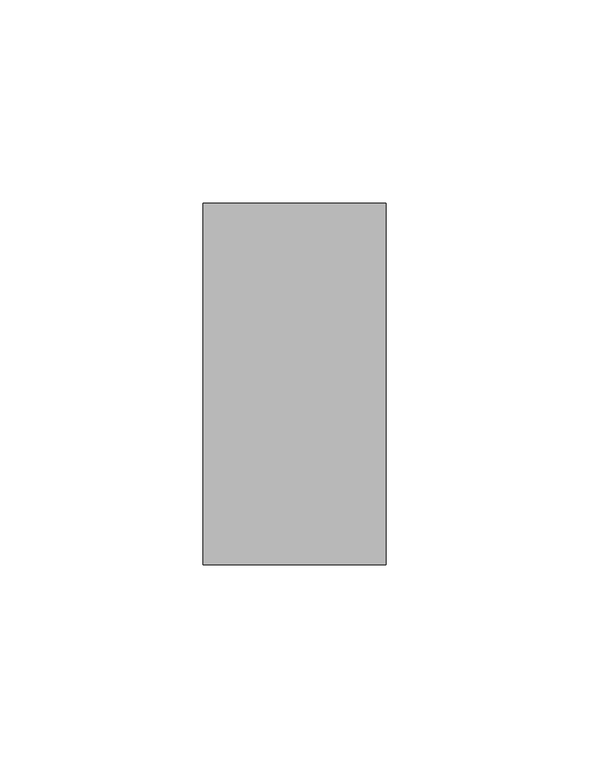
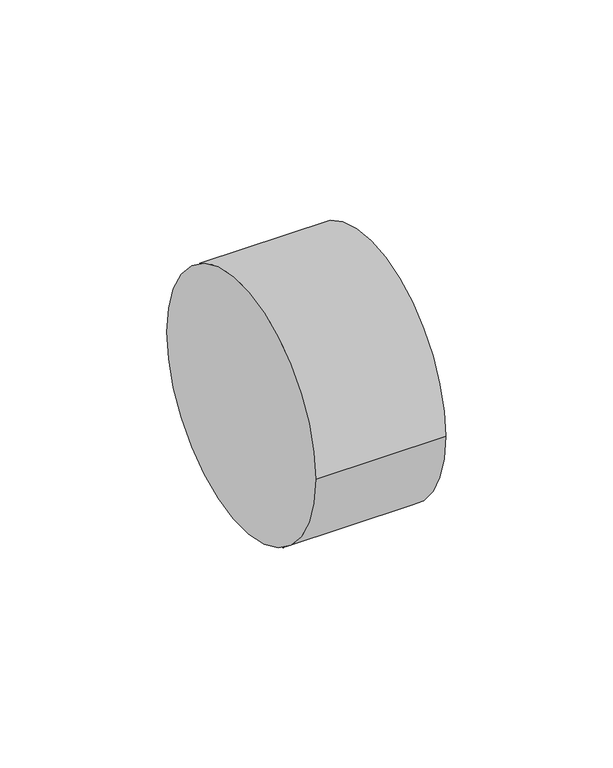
"""IFC4 building model written with IfcOpenShell, lengths in millimetres: pipe fitting geometry, ADSK_ДетальСтальнаяСварная_Заглушка_ГОСТ17379-2001 : Исполнение 2."""

import ifcopenshell
import ifcopenshell.guid

model = None  # the IFC model being written
_history = None  # IfcOwnerHistory: only IFC2X3 demands one
_inside = {}  # id of a spatial element -> (the spatial element, [elements in it])
_under = {}  # id of a project, library or spatial element -> (it, [spatial elements below it])
_declared = {}  # id of a project -> (the project, [libraries it declares])
_typed = {}  # id of a type object -> (the type object, [elements of that type])
_made_of = {}  # id of a material, layer set ... -> (it, [elements and type objects made of it])


def new_model(schema):
    """Start an empty IFC model of exactly this schema.

    Asked for "IFC4X3", IfcOpenShell would pick the latest addendum, in which some entities
    have other attributes; the version numbers below select the first issue.
    IFC2X3 requires an IfcOwnerHistory on every rooted entity: one is made here for all.
    """
    global model, _history
    if schema == "IFC4X3":
        model = ifcopenshell.file(schema_version=(4, 3, 0, 0))
    else:
        model = ifcopenshell.file(schema=schema)
    _inside.clear()
    _under.clear()
    _declared.clear()
    _typed.clear()
    _made_of.clear()
    _history = None
    if model.schema == "IFC2X3":
        org = make("IfcOrganization", Name="unknown")
        user = make(
            "IfcPersonAndOrganization",
            ThePerson=make("IfcPerson", FamilyName="unknown"),
            TheOrganization=org,
        )
        app = make(
            "IfcApplication",
            ApplicationDeveloper=org,
            Version="unknown",
            ApplicationFullName="unknown",
            ApplicationIdentifier="unknown",
        )
        _history = make(
            "IfcOwnerHistory",
            OwningUser=user,
            OwningApplication=app,
            ChangeAction="ADDED",
            CreationDate=0,
        )
    return model


def make(cls, **values):
    """One entity of the class cls with the attributes given. An attribute that is None is left unset."""
    return model.create_entity(
        cls, **{name: value for name, value in values.items() if value is not None}
    )


def rooted(cls, **values):
    """An entity with a GlobalId (a new one), such as an element, a storey or a relation."""
    return make(cls, GlobalId=ifcopenshell.guid.new(), OwnerHistory=_history, **values)


def si_unit(unit_type, name, prefix=None):
    """IfcSIUnit, for example si_unit("LENGTHUNIT", "METRE", prefix="MILLI")."""
    return make("IfcSIUnit", UnitType=unit_type, Prefix=prefix, Name=name)


def assignment(units):
    """IfcUnitAssignment: the units of a project."""
    return None if units is None else make("IfcUnitAssignment", Units=units)


def point(xyz):
    """IfcCartesianPoint."""
    return None if xyz is None else make("IfcCartesianPoint", Coordinates=xyz)


def direction(xyz):
    """IfcDirection."""
    return None if xyz is None else make("IfcDirection", DirectionRatios=xyz)


def frame(location, z_axis=None, x_axis=None):
    """IfcAxis2Placement3D, a coordinate frame: its origin and axes. An axis left out is left unset."""
    return make(
        "IfcAxis2Placement3D",
        Location=point(location),
        Axis=direction(z_axis),
        RefDirection=direction(x_axis),
    )


def frame_2d(location, x_axis=None):
    """IfcAxis2Placement2D, a coordinate frame in the plane: its origin and x axis."""
    return make(
        "IfcAxis2Placement2D", Location=point(location), RefDirection=direction(x_axis)
    )


def origin():
    """The frame at (0, 0, 0) with its axes left unset."""
    return frame((0.0, 0.0, 0.0))


def origin_2d():
    """The frame at (0, 0) in the plane with its x axis left unset."""
    return frame_2d((0.0, 0.0))


def place(relative_to, where):
    """IfcLocalPlacement: puts the frame where relative to a parent placement (None: the world)."""
    return make(
        "IfcLocalPlacement", PlacementRelTo=relative_to, RelativePlacement=where
    )


def context(
    kind, dimensions, precision=None, world=None, true_north=None, identifier=None
):
    """IfcGeometricRepresentationContext, for example the 3D "Model" context."""
    return make(
        "IfcGeometricRepresentationContext",
        ContextIdentifier=identifier,
        ContextType=kind,
        CoordinateSpaceDimension=dimensions,
        Precision=precision,
        WorldCoordinateSystem=world,
        TrueNorth=true_north,
    )


def project(units=None, contexts=None):
    """IfcProject with its units and contexts."""
    return rooted(
        "IfcProject",
        Name="project",
        RepresentationContexts=contexts,
        UnitsInContext=assignment(units),
    )


def spatial(cls, under=None, at=None, **own):
    """A site, building, storey or space (cls), placed at a placement, below another one or the project."""
    s = rooted(cls, ObjectPlacement=at, **own)
    if under is not None:
        _under.setdefault(under.id(), (under, []))[1].append(s)
    return s


def circle_curve(where, radius):
    """IfcCircle in the frame where."""
    return make("IfcCircle", Position=where, Radius=radius)


def trimmed(basis, trim1, trim2, sense, master):
    """IfcTrimmedCurve: the piece of a basis curve between two trims."""
    return make(
        "IfcTrimmedCurve",
        BasisCurve=basis,
        Trim1=trim1,
        Trim2=trim2,
        SenseAgreement=sense,
        MasterRepresentation=master,
    )


def segment(curve, same_sense, transition):
    """IfcCompositeCurveSegment."""
    return make(
        "IfcCompositeCurveSegment",
        Transition=transition,
        SameSense=same_sense,
        ParentCurve=curve,
    )


def composite_curve(segments, self_intersect=None):
    """IfcCompositeCurve: segments joined end to end."""
    return make("IfcCompositeCurve", Segments=segments, SelfIntersect=self_intersect)


def outline(outer, holes=None, kind="AREA"):
    """IfcArbitraryClosedProfileDef: a profile drawn as a closed curve; with holes, ...WithVoids."""
    if holes is None:
        return make("IfcArbitraryClosedProfileDef", ProfileType=kind, OuterCurve=outer)
    return make(
        "IfcArbitraryProfileDefWithVoids",
        ProfileType=kind,
        OuterCurve=outer,
        InnerCurves=holes,
    )


def extrude(swept, where, along, depth):
    """IfcExtrudedAreaSolid: the profile swept, set in the frame where, extruded along a direction by depth."""
    return make(
        "IfcExtrudedAreaSolid",
        SweptArea=swept,
        Position=where,
        ExtrudedDirection=direction(along),
        Depth=depth,
    )


def shape(context_of_items, identifier, shape_type, items):
    """IfcShapeRepresentation: the items that make up one representation, for example the "Body"."""
    return make(
        "IfcShapeRepresentation",
        ContextOfItems=context_of_items,
        RepresentationIdentifier=identifier,
        RepresentationType=shape_type,
        Items=items,
    )


def source(mapping_origin, context_of_items, identifier, shape_type, items):
    """IfcRepresentationMap: a shape defined once, which mapped items show again and again."""
    return make(
        "IfcRepresentationMap",
        MappingOrigin=mapping_origin,
        MappedRepresentation=shape(context_of_items, identifier, shape_type, items),
    )


def transform(
    local_origin,
    x_axis=None,
    y_axis=None,
    z_axis=None,
    scale=None,
    scale2=None,
    scale3=None,
    uniform=True,
):
    """IfcCartesianTransformationOperator3D, or its non-uniform kind. x_axis, y_axis, z_axis: its Axis1, 2, 3."""
    if uniform:
        return make(
            "IfcCartesianTransformationOperator3D",
            Axis1=direction(x_axis),
            Axis2=direction(y_axis),
            LocalOrigin=point(local_origin),
            Scale=scale,
            Axis3=direction(z_axis),
        )
    return make(
        "IfcCartesianTransformationOperator3DnonUniform",
        Axis1=direction(x_axis),
        Axis2=direction(y_axis),
        LocalOrigin=point(local_origin),
        Scale=scale,
        Axis3=direction(z_axis),
        Scale2=scale2,
        Scale3=scale3,
    )


def mapped(mapping_source, mapping_target):
    """IfcMappedItem: shows the shape of a source again, moved by a transform."""
    return make(
        "IfcMappedItem", MappingSource=mapping_source, MappingTarget=mapping_target
    )


def made_of(thing, what):
    """Note that an element or type object is made of a material, layer set ...; save() writes the relation."""
    if what is not None:
        _made_of.setdefault(what.id(), (what, []))[1].append(thing)
    return thing


def element(
    cls,
    number,
    at=None,
    inside=None,
    cuts=None,
    type_object=None,
    material=None,
    context=None,
    identifier="Body",
    shape_type=None,
    held_by="IfcProductDefinitionShape",
    body=None,
    shapes=None,
    **own,
):
    """One element of the class cls, such as IfcWall. Its Tag is "e" and its number.

    at: its placement. inside: the storey or other place that contains it. cuts: it is an
    opening in that element (IfcRelVoidsElement). A single representation is given by context,
    identifier, shape_type and body (its items); several are given by shapes. held_by: the class
    of the entity that holds the representations. save() writes the other relations.
    """
    e = rooted(cls, Tag="e%d" % number, ObjectPlacement=at, **own)
    if body is not None:
        shapes = [shape(context, identifier, shape_type, body)]
    if shapes is not None:
        e.Representation = make(held_by, Representations=shapes)
    if inside is not None:
        _inside.setdefault(inside.id(), (inside, []))[1].append(e)
    if cuts is not None:
        rooted(
            "IfcRelVoidsElement", RelatingBuildingElement=cuts, RelatedOpeningElement=e
        )
    if type_object is not None:
        _typed.setdefault(type_object.id(), (type_object, []))[1].append(e)
    return made_of(e, material)


def aggregate(whole, parts):
    """IfcRelAggregates: a whole, such as a stair, and the parts it consists of."""
    return rooted("IfcRelAggregates", RelatingObject=whole, RelatedObjects=parts)


def save(model, path):
    """Write the relations noted so far, then the file.

    IfcRelAggregates (storeys below a building ...), IfcRelContainedInSpatialStructure (elements
    in a storey), IfcRelDefinesByType, IfcRelAssociatesMaterial and IfcRelDeclares: one each for
    every whole, place, type object, material and project.
    """
    for whole, parts in _under.values():
        aggregate(whole, parts)
    for where, things in _inside.values():
        rooted(
            "IfcRelContainedInSpatialStructure",
            RelatedElements=things,
            RelatingStructure=where,
        )
    for kind, things in _typed.values():
        rooted("IfcRelDefinesByType", RelatedObjects=things, RelatingType=kind)
    for what, things in _made_of.values():
        rooted("IfcRelAssociatesMaterial", RelatedObjects=things, RelatingMaterial=what)
    for by, libraries in _declared.values():
        rooted("IfcRelDeclares", RelatingContext=by, RelatedDefinitions=libraries)
    model.write(path)


def pipe_fitting_3d20a671(model_context):
    return source(origin(), model_context, "Body", "SweptSolid", [
        extrude(outline(composite_curve([segment(trimmed(circle_curve(origin_2d(), 44.5), [point((-44.5, 0.0))], [point((44.5, 0.0))], False, "CARTESIAN"), True, "CONTINUOUS"), segment(trimmed(circle_curve(origin_2d(), 44.5), [point((44.5, 0.0))], [point((-44.5, 0.0))], False, "CARTESIAN"), True, "CONTINUOUS")], self_intersect=False)), frame((0.0, 0.0, 0.0), z_axis=(1.0, 0.0, 0.0), x_axis=(0.0, 1.0, 0.0)), (0.0, 0.0, 1.0), 45.0),
    ])


if __name__ == "__main__":
    model = new_model("IFC4")
    model_context = context("Model", 3, world=origin())
    ifc_project = project(units=[si_unit("LENGTHUNIT", "METRE", prefix="MILLI")], contexts=[model_context])
    site = spatial("IfcSite", under=ifc_project)
    building = spatial("IfcBuilding", under=site)
    placement = place(None, origin())
    pipe_fitting_shape = pipe_fitting_3d20a671(model_context)
    element("IfcPipeFitting", 1, ObjectType="ADSK_ДетальСтальнаяСварная_Заглушка_ГОСТ17379-2001 : Исполнение 2", at=placement, inside=building, context=model_context, shape_type="MappedRepresentation", body=[
        mapped(pipe_fitting_shape, transform((0.0, 0.0, 0.0), x_axis=(1.0, 0.0, 0.0), y_axis=(0.0, 1.0, 0.0), z_axis=(0.0, 0.0, 1.0))),
    ])
    save(model, "model.ifc")
